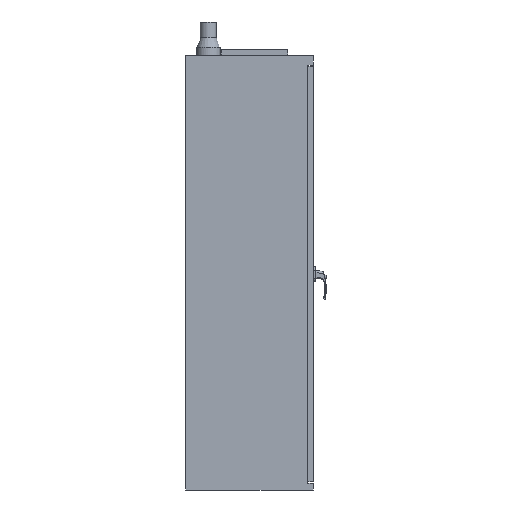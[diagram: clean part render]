
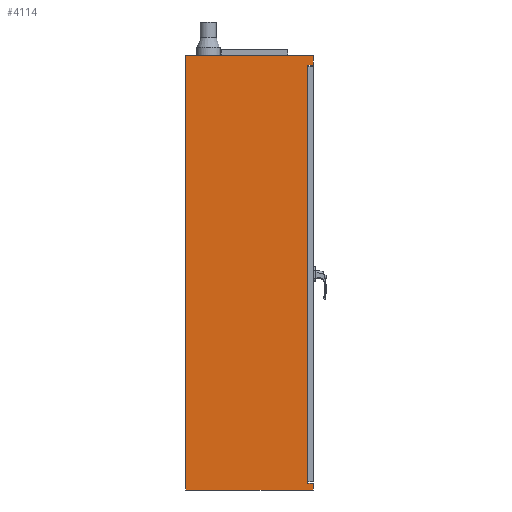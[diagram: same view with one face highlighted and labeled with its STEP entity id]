
A CAD part, left-side view. The second image highlights one B-rep face of the part: STEP entity #4114.
In plain terms, the highlighted planar face has unit normal (-1, 0, 0).
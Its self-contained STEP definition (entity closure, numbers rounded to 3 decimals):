
#299=ORIENTED_EDGE('',*,*,#949,.F.);
#300=ORIENTED_EDGE('',*,*,#1088,.F.);
#301=ORIENTED_EDGE('',*,*,#1090,.T.);
#302=ORIENTED_EDGE('',*,*,#1114,.F.);
#303=ORIENTED_EDGE('',*,*,#1115,.F.);
#304=ORIENTED_EDGE('',*,*,#1116,.T.);
#305=ORIENTED_EDGE('',*,*,#1117,.T.);
#306=ORIENTED_EDGE('',*,*,#1118,.F.);
#949=EDGE_CURVE('',#1361,#1362,#1634,.T.);
#1088=EDGE_CURVE('',#1500,#1361,#1758,.F.);
#1090=EDGE_CURVE('',#1500,#1501,#1760,.T.);
#1114=EDGE_CURVE('',#1519,#1501,#1784,.T.);
#1115=EDGE_CURVE('',#1520,#1519,#1785,.T.);
#1116=EDGE_CURVE('',#1520,#1521,#1786,.T.);
#1117=EDGE_CURVE('',#1521,#1522,#1787,.T.);
#1118=EDGE_CURVE('',#1362,#1522,#1788,.T.);
#1361=VERTEX_POINT('',#5267);
#1362=VERTEX_POINT('',#5269);
#1500=VERTEX_POINT('',#5602);
#1501=VERTEX_POINT('',#5607);
#1519=VERTEX_POINT('',#5656);
#1520=VERTEX_POINT('',#5658);
#1521=VERTEX_POINT('',#5660);
#1522=VERTEX_POINT('',#5662);
#1634=LINE('',#5268,#1979);
#1758=LINE('',#5603,#2103);
#1760=LINE('',#5606,#2105);
#1784=LINE('',#5655,#2129);
#1785=LINE('',#5657,#2130);
#1786=LINE('',#5659,#2131);
#1787=LINE('',#5661,#2132);
#1788=LINE('',#5663,#2133);
#1979=VECTOR('',#4493,1000.);
#2103=VECTOR('',#4659,1000.);
#2105=VECTOR('',#4663,1000.);
#2129=VECTOR('',#4701,1000.);
#2130=VECTOR('',#4702,1000.);
#2131=VECTOR('',#4703,1000.);
#2132=VECTOR('',#4704,1000.);
#2133=VECTOR('',#4705,1000.);
#2360=EDGE_LOOP('',(#299,#300,#301,#302,#303,#304,#305,#306));
#2567=FACE_BOUND('',#2360,.T.);
#2755=PLANE('',#4303);
#4114=ADVANCED_FACE('',(#2567),#2755,.F.);
#4303=AXIS2_PLACEMENT_3D('',#5654,#4699,#4700);
#4493=DIRECTION('',(0.,-1.,0.));
#4659=DIRECTION('',(0.,0.,-1.));
#4663=DIRECTION('',(0.,-1.,0.));
#4699=DIRECTION('',(1.,0.,0.));
#4700=DIRECTION('',(0.,0.,-1.));
#4701=DIRECTION('',(0.,0.,-1.));
#4702=DIRECTION('',(0.,-1.,0.));
#4703=DIRECTION('',(0.,0.,1.));
#4704=DIRECTION('',(0.,-1.,0.));
#4705=DIRECTION('',(0.,0.,-1.));
#5267=CARTESIAN_POINT('',(0.,596.,2030.));
#5268=CARTESIAN_POINT('',(0.,610.,2030.));
#5269=CARTESIAN_POINT('',(0.,0.,2030.));
#5602=CARTESIAN_POINT('',(0.,596.,0.));
#5603=CARTESIAN_POINT('',(0.,596.,2030.));
#5606=CARTESIAN_POINT('',(0.,610.,0.));
#5607=CARTESIAN_POINT('',(0.,0.,0.));
#5654=CARTESIAN_POINT('',(0.,610.,2030.));
#5655=CARTESIAN_POINT('',(0.,0.,2030.));
#5656=CARTESIAN_POINT('',(0.,0.,32.));
#5657=CARTESIAN_POINT('',(0.,25.,32.));
#5658=CARTESIAN_POINT('',(0.,25.,32.));
#5659=CARTESIAN_POINT('',(0.,25.,38.3));
#5660=CARTESIAN_POINT('',(0.,25.,1985.));
#5661=CARTESIAN_POINT('',(0.,25.,1985.));
#5662=CARTESIAN_POINT('',(0.,0.,1985.));
#5663=CARTESIAN_POINT('',(0.,0.,2030.));
